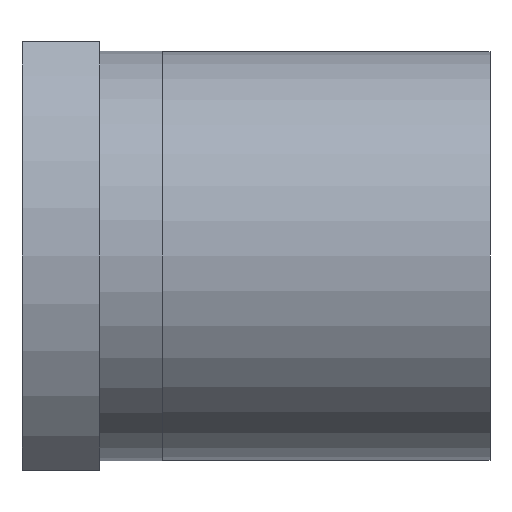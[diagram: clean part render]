
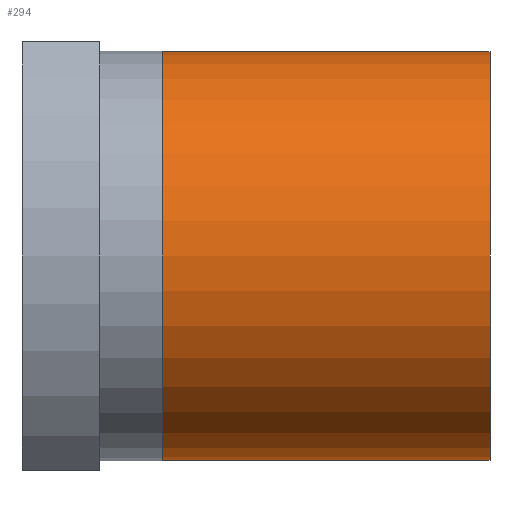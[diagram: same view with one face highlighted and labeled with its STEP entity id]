
A CAD part, front view. The second image highlights one B-rep face of the part: STEP entity #294.
In plain terms, the highlighted cylindrical face has radius 52.375 mm (diameter 104.75 mm), a partial arc.
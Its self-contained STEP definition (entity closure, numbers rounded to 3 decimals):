
#62 = ORIENTED_EDGE ( 'NONE', *, *, #342, .F. ) ;
#106 = ORIENTED_EDGE ( 'NONE', *, *, #600, .T. ) ;
#139 = EDGE_CURVE ( 'NONE', #1908, #1857, #1213, .T. ) ;
#145 = EDGE_CURVE ( 'NONE', #1908, #1876, #1227, .T. ) ;
#149 = VERTEX_POINT ( 'NONE', #1250 ) ;
#168 = ORIENTED_EDGE ( 'NONE', *, *, #145, .T. ) ;
#205 = ORIENTED_EDGE ( 'NONE', *, *, #139, .F. ) ;
#268 = EDGE_LOOP ( 'NONE', ( #205, #168, #106, #62 ) ) ;
#294 = ADVANCED_FACE ( 'NONE', ( #849 ), #850, .T. ) ;
#342 = EDGE_CURVE ( 'NONE', #1857, #149, #1040, .T. ) ;
#600 = EDGE_CURVE ( 'NONE', #1876, #149, #1341, .T. ) ;
#849 = FACE_OUTER_BOUND ( 'NONE', #268, .T. ) ;
#850 = CYLINDRICAL_SURFACE ( 'NONE', #851, 52.375 ) ;
#851 = AXIS2_PLACEMENT_3D ( 'NONE', #852, #853, #854 ) ;
#852 = CARTESIAN_POINT ( 'NONE',  ( 0., 0., 0. ) ) ;
#853 = DIRECTION ( 'NONE',  ( -1., 0., 0. ) ) ;
#854 = DIRECTION ( 'NONE',  ( 0., 0., 1. ) ) ;
#1040 = CIRCLE ( 'NONE', #1041, 52.375 ) ;
#1041 = AXIS2_PLACEMENT_3D ( 'NONE', #1042, #1043, #1044 ) ;
#1042 = CARTESIAN_POINT ( 'NONE',  ( 36., 0., 0. ) ) ;
#1043 = DIRECTION ( 'NONE',  ( -1., 0., 0. ) ) ;
#1044 = DIRECTION ( 'NONE',  ( 0., 0., 1. ) ) ;
#1213 = LINE ( 'NONE', #1214, #1215 ) ;
#1214 = CARTESIAN_POINT ( 'NONE',  ( 0., 0., -52.375 ) ) ;
#1215 = VECTOR ( 'NONE', #1216, 1000. ) ;
#1216 = DIRECTION ( 'NONE',  ( -1., 0., 0. ) ) ;
#1227 = CIRCLE ( 'NONE', #1228, 52.375 ) ;
#1228 = AXIS2_PLACEMENT_3D ( 'NONE', #1229, #1230, #1231 ) ;
#1229 = CARTESIAN_POINT ( 'NONE',  ( 120., 0., 0. ) ) ;
#1230 = DIRECTION ( 'NONE',  ( -1., 0., 0. ) ) ;
#1231 = DIRECTION ( 'NONE',  ( 0., 0., 1. ) ) ;
#1250 = CARTESIAN_POINT ( 'NONE',  ( 36., 0., 52.375 ) ) ;
#1251 = CARTESIAN_POINT ( 'NONE',  ( 36., 0., -52.375 ) ) ;
#1341 = LINE ( 'NONE', #1342, #1343 ) ;
#1342 = CARTESIAN_POINT ( 'NONE',  ( 0., 0., 52.375 ) ) ;
#1343 = VECTOR ( 'NONE', #1344, 1000. ) ;
#1344 = DIRECTION ( 'NONE',  ( -1., 0., 0. ) ) ;
#1386 = CARTESIAN_POINT ( 'NONE',  ( 120., 0., 52.375 ) ) ;
#1618 = CARTESIAN_POINT ( 'NONE',  ( 120., 0., -52.375 ) ) ;
#1857 = VERTEX_POINT ( 'NONE', #1251 ) ;
#1876 = VERTEX_POINT ( 'NONE', #1386 ) ;
#1908 = VERTEX_POINT ( 'NONE', #1618 ) ;
